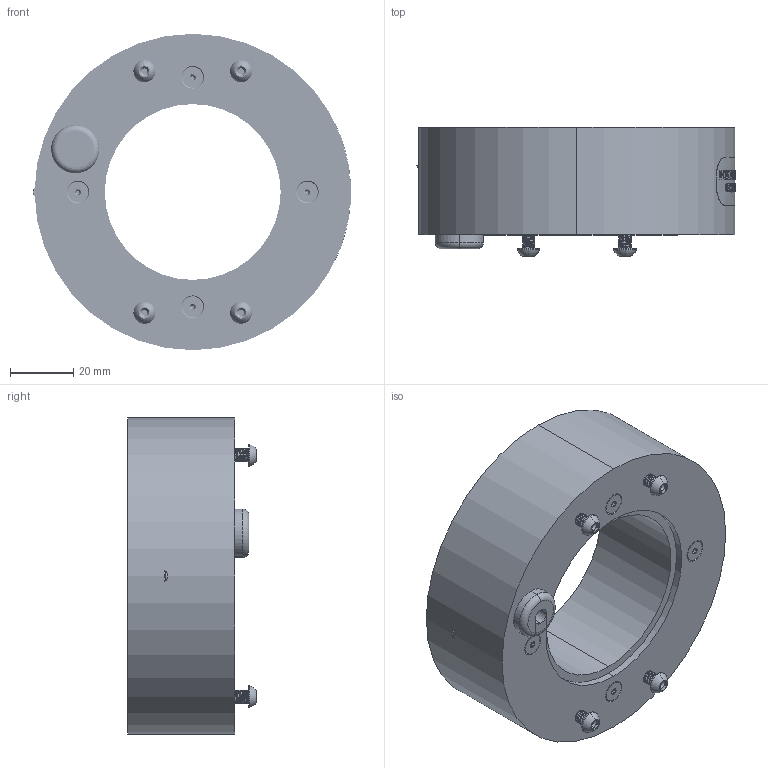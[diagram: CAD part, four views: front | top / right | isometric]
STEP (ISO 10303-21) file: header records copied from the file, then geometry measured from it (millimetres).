
FILE_DESCRIPTION (( 'STEP AP203' ), '1' );
FILE_NAME ('RL4260.STEP', '2017-06-01T14:15:05', ( '' ), ( '' ), 'SwSTEP 2.0', 'SolidWorks 2017', '' );
FILE_SCHEMA (( 'CONFIG_CONTROL_DESIGN' ));
Length unit declared in the file: inch
Products named in the file (13): BH-M4x8; 091053 (RL4260); 092-01-006_Default<As Machined>; 092-01-002; FH-440X5_16; 7314; MF-440X.312; FF-440x.75; BH-440X1_4_91239A704; ISLW-#4_Default<As Machined>; 092-03-007; RL4260; 1154 (no strap)
Assembly tree (29 placements, depth 2):
  RL4260
    092-01-002
    FH-440X5_16  x4
    FF-440x.75  x4
    092-01-006_Default<As Machined>
    1154 (no strap)
    7314
    ISLW-#4_Default<As Machined>  x3
    MF-440X.312  x4
    092-03-007
    BH-440X1_4_91239A704  x4
    091053 (RL4260)
    BH-M4x8  x4
Bounding box: 100.38 x 40.77 x 99.82 mm (x, y, z)
Volume: 47324.8 mm3; surface area: 62258.9 mm2
Topology: 30 solids, 30 shells, 2024 faces, 4949 edges, 3045 vertices
Faces by surface type: cylinder 908, plane 551, cone 409, bspline 135, torus 13, sphere 8
Entity records: 46292 total; most frequent: CARTESIAN_POINT 25565, ORIENTED_EDGE 4300, DIRECTION 3469, EDGE_CURVE 2150, VERTEX_POINT 1367, AXIS2_PLACEMENT_3D 1307, EDGE_LOOP 935, VECTOR 855
